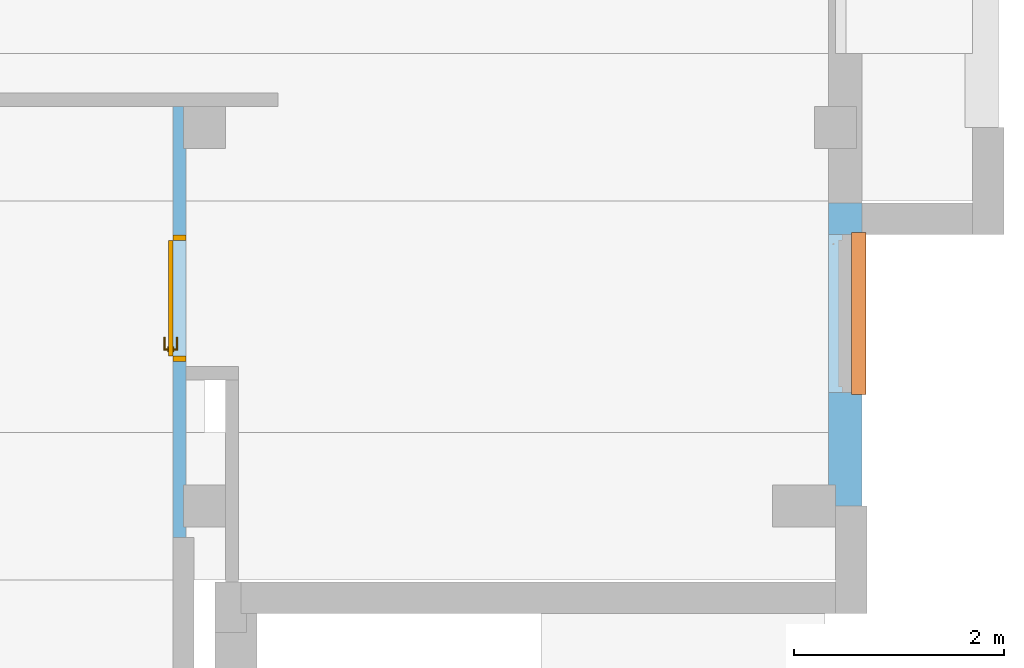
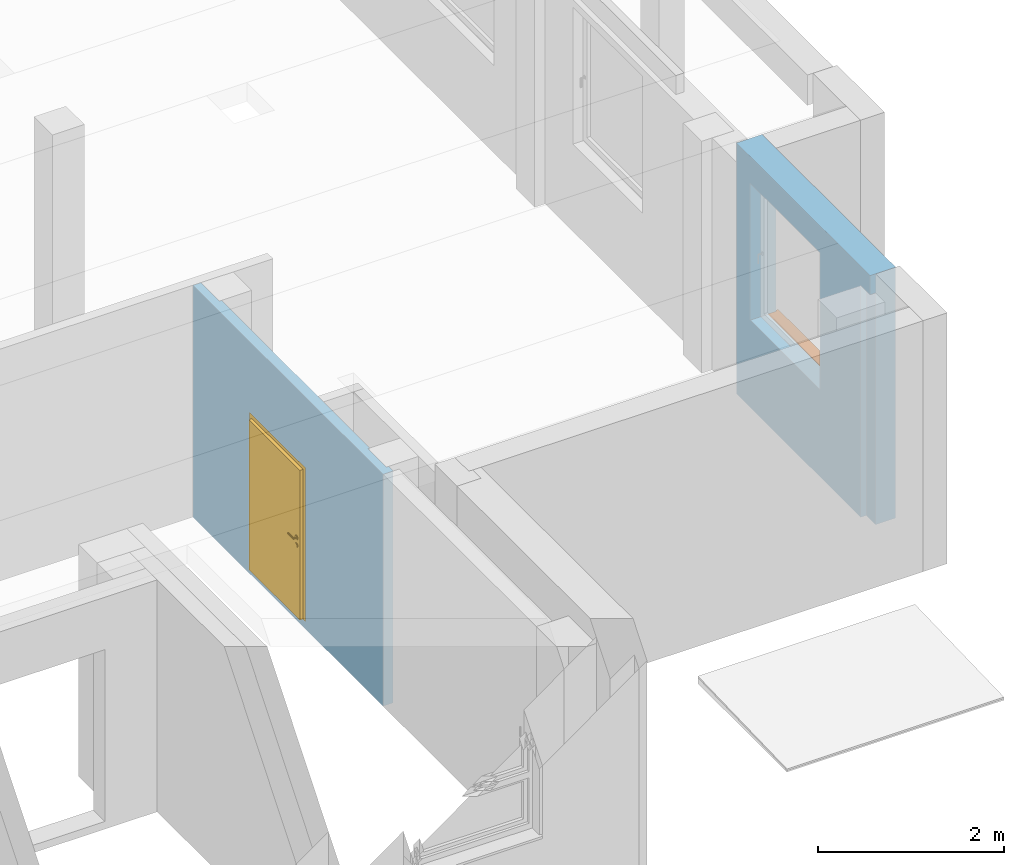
# One storey, part 16 of 27: 1 door, 1 proxy, 2 openings, plus 2 elements that do not belong to this part.
"""IFC4 building model written with IfcOpenShell, lengths in metres."""

from ifc_helpers import new_model, entity, si_unit, converted_unit, derived_unit, frame, frame_2d, origin, origin_with_axes, place, context, subcontext, project, spatial, polyline, rectangle, outline, extrude, clip, bounded_halfspace, closed_shell, open_shell, faceted_brep, surface_model, source, transform, mapped, material, layer, layer_set, layer_usage, type_object, element, fill, save


model = new_model("IFC4")

# Units and contexts
model_context = context("Model", 3, precision=1e-05, world=origin())
body_context = subcontext(model_context, "Body", "Model", "MODEL_VIEW")
ifc_project = project(units=[si_unit("LENGTHUNIT", "METRE"), si_unit("AREAUNIT", "SQUARE_METRE"), si_unit("VOLUMEUNIT", "CUBIC_METRE"), si_unit("MASSUNIT", "GRAM", prefix="KILO"), converted_unit("PLANEANGLEUNIT", "DEGREE", entity("IfcPlaneAngleMeasure", 0.0174532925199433), si_unit("PLANEANGLEUNIT", "RADIAN"), dimensions=[0, 0, 0, 0, 0, 0, 0]), derived_unit("THERMALTRANSMITTANCEUNIT", [(si_unit("POWERUNIT", "WATT"), 1), (si_unit("THERMODYNAMICTEMPERATUREUNIT", "KELVIN"), -1), (si_unit("LENGTHUNIT", "METRE"), -2)]), derived_unit("VOLUMETRICFLOWRATEUNIT", [(si_unit("LENGTHUNIT", "METRE"), 3), (converted_unit("TIMEUNIT", "hour", entity("IfcTimeMeasure", 3600.0), si_unit("TIMEUNIT", "SECOND"), dimensions=[0, 0, 1, 0, 0, 0, 0]), -1), (si_unit("LENGTHUNIT", "METRE"), -1)])], contexts=[model_context])

# Site, building, storey
site_placement = place(None, origin())
site = spatial("IfcSite", under=ifc_project, at=site_placement, Name="3. ASŘ", CompositionType="ELEMENT")
building_placement = place(site_placement, origin())
building = spatial("IfcBuilding", under=site, at=building_placement, Name="Pavilon C", CompositionType="ELEMENT")
storey_placement = place(building_placement, frame((0.0, 0.0, 7.2)))
storey = spatial("IfcBuildingStorey", under=building, at=storey_placement, Name="Půdorys 3.NP", CompositionType="ELEMENT", Elevation=7.2)

# Wall, opening, proxy
ifc_material_1 = material(Name="PLYNOSILIKÁT")
ifc_layer_1 = layer(ifc_material_1, 0.32)
ifc_layer_set_1 = layer_set([ifc_layer_1])
ifc_layer_usage_1 = layer_usage(ifc_layer_set_1, "AXIS2", "POSITIVE", 0.0)
wall_1_placement = place(storey_placement, frame((50.2, -5.51980683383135e-15, -0.1), z_axis=(0.0, 0.0, 1.0), x_axis=(0.0, 1.0, 0.0)))
wall_1 = element("IfcWall", 1, at=wall_1_placement, inside=storey, material=ifc_layer_usage_1, Name="PLYNOSILIKÁT", context=body_context, shape_type="Clipping", body=[
    clip(extrude(rectangle(XDim=2.88, YDim=0.32, at=frame_2d((1.44, 0.16), x_axis=(1.0, 0.0))), origin_with_axes(), (0.0, 0.0, 1.0), 3.3), bounded_halfspace(frame((0.0999999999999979, 0.285, 3.05), z_axis=(0.0, 0.0, 1.0), x_axis=(0.0, 1.0, 0.0)), True, origin_with_axes(), polyline([(0.199999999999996, 0.25), (0.199999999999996, 0.32), (6.28386231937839e-17, 0.32), (6.28386231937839e-17, 0.25), (0.199999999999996, 0.25)]))),
])
opening_1_placement = place(wall_1_placement, frame((1.08, 0.0, 1.15), z_axis=(0.0, 1.0, 0.0), x_axis=(0.0, 0.0, 1.0)))
opening_1 = element("IfcOpeningElement", 2, at=opening_1_placement, cuts=wall_1, Name="Okenní otvor", ObjectType="Opening", context=body_context, shape_type="SweptSolid", body=[
    extrude(outline(polyline([(0.0, 1.5), (1.8, 1.5), (1.8, 0.0), (0.0, 0.0), (0.0, 1.5)])), origin_with_axes(), (0.0, 0.0, 1.0), 0.32),
])
ifc_material_2 = material(Name="PLECH")
shared_shape_1 = source(origin_with_axes(), body_context, "Body", "Brep", [
    faceted_brep([(-4.54747350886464e-16, 1.45519152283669e-14, 0.0), (-4.54747350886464e-16, 0.100000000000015, 0.0), (-4.54747350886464e-16, 0.100000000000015, 0.005), (-4.54747350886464e-16, 1.45519152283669e-14, 0.005), (1.5, 1.45519152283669e-14, 0.0), (1.5, 1.45519152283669e-14, 0.005), (1.5, 0.100000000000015, 0.005), (1.5, 0.100000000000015, 0.0), (-0.0200000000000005, 1.45519152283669e-14, 0.0), (-0.0200000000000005, -0.0349999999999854, 0.0), (1.52, -0.0349999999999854, 0.0), (1.52, 1.45519152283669e-14, 0.0), (1.52, 1.45519152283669e-14, 0.005), (1.52, -0.0399999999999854, 0.005), (-0.0200000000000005, -0.0399999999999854, 0.005), (-0.0200000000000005, 1.45519152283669e-14, 0.005), (-0.0200000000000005, -0.0399999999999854, -0.025), (-0.0200000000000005, -0.0349999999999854, -0.025), (1.52, -0.0349999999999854, -0.025), (1.52, -0.0399999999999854, -0.025)], [[[0, 1, 2, 3]], [[4, 5, 6, 7]], [[1, 0, 8, 9, 10, 11, 4, 7]], [[2, 1, 7, 6]], [[3, 2, 6, 5, 12, 13, 14, 15]], [[8, 15, 14, 16, 17, 9]], [[11, 10, 18, 19, 13, 12]], [[15, 8, 0, 3]], [[5, 4, 11, 12]], [[16, 14, 13, 19]], [[17, 16, 19, 18]], [[9, 17, 18, 10]]], orient=[[False], [False], [False], [False], [False], [False], [False], [False], [False], [False], [False], [False]]),
    faceted_brep([(-0.0200000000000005, 1.45519152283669e-14, 0.0), (-0.0200000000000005, 0.100000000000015, 0.0), (-0.0200000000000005, 0.100000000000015, 0.005), (-0.0200000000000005, 1.45519152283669e-14, 0.005), (-4.54747350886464e-16, 1.45519152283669e-14, 0.0), (-4.54747350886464e-16, 1.45519152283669e-14, 0.005), (-4.54747350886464e-16, 0.100000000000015, 0.005), (-4.54747350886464e-16, 0.100000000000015, 0.0)], [[[0, 1, 2, 3]], [[4, 5, 6, 7]], [[1, 0, 4, 7]], [[2, 1, 7, 6]], [[3, 2, 6, 5]], [[0, 3, 5, 4]]], orient=[[False], [False], [False], [False], [False], [False]]),
    faceted_brep([(1.5, 1.45519152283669e-14, 0.0), (1.5, 0.100000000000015, 0.0), (1.5, 0.100000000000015, 0.005), (1.5, 1.45519152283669e-14, 0.005), (1.52, 1.45519152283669e-14, 0.0), (1.52, 1.45519152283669e-14, 0.005), (1.52, 0.100000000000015, 0.005), (1.52, 0.100000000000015, 0.0)], [[[0, 1, 2, 3]], [[4, 5, 6, 7]], [[1, 0, 4, 7]], [[2, 1, 7, 6]], [[3, 2, 6, 5]], [[0, 3, 5, 4]]], orient=[[False], [False], [False], [False], [False], [False]]),
])
proxy_placement = place(opening_1_placement, frame((0.0, 0.0, 0.0), z_axis=(1.0, 0.0, 0.0), x_axis=(0.0, 1.0, 0.0)))
proxy = element("IfcBuildingElementProxy", 3, at=proxy_placement, inside=storey, material=ifc_material_2, Name="Parapet vnější", context=body_context, shape_type="MappedRepresentation", body=[
    mapped(shared_shape_1, transform((0.0, 0.0, 0.0), x_axis=(1.0, 0.0, 0.0), y_axis=(0.0, 1.0, 0.0), z_axis=(0.0, 0.0, 1.0), scale=1.0)),
])
fill(opening_1, proxy)

# Wall, opening, door
ifc_material_3 = material(Name="ZDIVO Z CDm")
ifc_layer_2 = layer(ifc_material_3, 0.125)
ifc_layer_set_2 = layer_set([ifc_layer_2])
ifc_layer_usage_2 = layer_usage(ifc_layer_set_2, "AXIS2", "POSITIVE", 0.0)
wall_2_placement = place(storey_placement, frame((43.65, 3.79999999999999, -0.1), z_axis=(0.0, 0.0, 1.0), x_axis=(0.0, -1.0, 0.0)))
wall_2 = element("IfcWall", 4, at=wall_2_placement, inside=storey, material=ifc_layer_usage_2, Name="ZDIVO Z CDm", context=body_context, shape_type="SweptSolid", body=[
    extrude(outline(polyline([(-4.09999999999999, 0.0), (0.0, 0.0), (0.0, 0.125), (-0.0999999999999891, 0.125), (-0.0999999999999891, 0.100000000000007), (-0.499999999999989, 0.100000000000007), (-0.499999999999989, 0.125), (-3.69999999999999, 0.125), (-3.69999999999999, 0.100000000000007), (-4.09999999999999, 0.100000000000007), (-4.09999999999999, 0.0)])), frame((4.09999999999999, 0.0, 0.0), z_axis=(0.0, 0.0, 1.0), x_axis=(1.0, 0.0, 0.0)), (0.0, 0.0, 1.0), 3.05),
])
opening_2_placement = place(wall_2_placement, frame((2.425, 0.125, 0.1), z_axis=(0.0, -1.0, 0.0), x_axis=(0.0, 0.0, 1.0)))
opening_2 = element("IfcOpeningElement", 5, at=opening_2_placement, cuts=wall_2, Name="Dveřní otvor", ObjectType="Opening", context=body_context, shape_type="SweptSolid", body=[
    extrude(outline(polyline([(0.0, 1.2), (2.02, 1.2), (2.02, 0.0), (0.0, 0.0), (0.0, 1.2)])), origin_with_axes(), (0.0, 0.0, 1.0), 0.125),
])
door_type = type_object("IfcDoorType", Name="D101", OperationType="NOTDEFINED", ParameterTakesPrecedence=False, PredefinedType="DOOR")
shared_shape_2 = source(origin_with_axes(), body_context, "Body", "SurfaceModel", [
    surface_model("IfcShellBasedSurfaceModel", [(0.0, 0.125, 2.02), (0.0, 0.125, -7.65404249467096e-18), (0.05, 0.125, -7.65404249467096e-18), (0.05, 0.125, 2.02), (0.0, 0.0, 7.65404249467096e-18), (0.0, 2.41584530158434e-16, 2.02), (0.05, 2.41584530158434e-16, 2.02), (0.05, 0.0, 7.65404249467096e-18)], [closed_shell([[[0, 1, 2, 3]], [[4, 5, 6, 7]], [[1, 0, 5, 4]], [[2, 1, 4, 7]], [[3, 2, 7, 6]], [[0, 3, 6, 5]]], orient=[[False], [False], [False], [False], [False], [False]])]),
    surface_model("IfcShellBasedSurfaceModel", [(1.15, 0.125, 2.02), (1.15, 0.125, -7.65404249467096e-18), (1.2, 0.125, -7.65404249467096e-18), (1.2, 0.125, 2.02), (1.15, 0.0, 7.65404249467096e-18), (1.15, 2.41584530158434e-16, 2.02), (1.2, 2.41584530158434e-16, 2.02), (1.2, 0.0, 7.65404249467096e-18)], [closed_shell([[[0, 1, 2, 3]], [[4, 5, 6, 7]], [[1, 0, 5, 4]], [[2, 1, 4, 7]], [[3, 2, 7, 6]], [[0, 3, 6, 5]]], orient=[[False], [False], [False], [False], [False], [False]])]),
    surface_model("IfcShellBasedSurfaceModel", [(0.05, 0.125, 2.02), (0.05, 0.125, 1.97), (1.15, 0.125, 1.97), (1.15, 0.125, 2.02), (0.05, 2.41584530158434e-16, 1.97), (0.05, 2.41584530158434e-16, 2.02), (1.15, 2.41584530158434e-16, 2.02), (1.15, 2.41584530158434e-16, 1.97)], [closed_shell([[[0, 1, 2, 3]], [[4, 5, 6, 7]], [[1, 0, 5, 4]], [[2, 1, 4, 7]], [[3, 2, 7, 6]], [[0, 3, 6, 5]]], orient=[[False], [False], [False], [False], [False], [False]])]),
    surface_model("IfcShellBasedSurfaceModel", [(0.05, 0.165, 1.97), (0.05, 0.165, -1.25526296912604e-17), (1.15, 0.165, -1.25526296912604e-17), (1.15, 0.165, 1.97), (0.05, 0.125, -7.65404249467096e-18), (0.05, 0.125, 1.97), (1.15, 0.125, 1.97), (1.15, 0.125, -7.65404249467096e-18)], [closed_shell([[[0, 1, 2, 3]], [[4, 5, 6, 7]], [[1, 0, 5, 4]], [[2, 1, 4, 7]], [[3, 2, 7, 6]], [[0, 3, 6, 5]]], orient=[[False], [False], [False], [False], [False], [False]])]),
    surface_model("IfcShellBasedSurfaceModel", [(1.10881569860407, 0.125, 0.93625), (1.1125, 0.125, 0.95), (1.10881569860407, 0.125, 0.96375), (1.09875, 0.125, 0.973815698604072), (1.085, 0.125, 0.9775), (1.07125, 0.125, 0.973815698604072), (1.06118430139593, 0.125, 0.96375), (1.0575, 0.125, 0.95), (1.06118430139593, 0.125, 0.93625), (1.07125, 0.125, 0.926184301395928), (1.085, 0.125, 0.9225), (1.09875, 0.125, 0.926184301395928), (1.1125, 0.1125, 0.95), (1.10881569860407, 0.1125, 0.93625), (1.09875, 0.1125, 0.926184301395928), (1.085, 0.1125, 0.9225), (1.07125, 0.1125, 0.926184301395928), (1.06118430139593, 0.1125, 0.93625), (1.0575, 0.1125, 0.95), (1.06118430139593, 0.1125, 0.96375), (1.07125, 0.1125, 0.973815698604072), (1.085, 0.1125, 0.9775), (1.09875, 0.1125, 0.973815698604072), (1.10881569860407, 0.1125, 0.96375)], [closed_shell([[[0, 1, 2, 3, 4, 5, 6, 7, 8, 9, 10, 11]], [[12, 13, 14, 15, 16, 17, 18, 19, 20, 21, 22, 23]], [[1, 0, 13, 12]], [[2, 1, 12, 23]], [[3, 2, 23, 22]], [[4, 3, 22, 21]], [[5, 4, 21, 20]], [[6, 5, 20, 19]], [[7, 6, 19, 18]], [[8, 7, 18, 17]], [[9, 8, 17, 16]], [[10, 9, 16, 15]], [[11, 10, 15, 14]], [[0, 11, 14, 13]]], orient=[[False], [False], [False], [False], [False], [False], [False], [False], [False], [False], [False], [False], [False], [False]])]),
    surface_model("IfcShellBasedSurfaceModel", [(1.10881569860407, 0.125, 1.03625), (1.1125, 0.125, 1.05), (1.10881569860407, 0.125, 1.06375), (1.09875, 0.125, 1.07381569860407), (1.085, 0.125, 1.0775), (1.07125, 0.125, 1.07381569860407), (1.06118430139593, 0.125, 1.06375), (1.0575, 0.125, 1.05), (1.06118430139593, 0.125, 1.03625), (1.07125, 0.125, 1.02618430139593), (1.085, 0.125, 1.0225), (1.09875, 0.125, 1.02618430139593), (1.1125, 0.1125, 1.05), (1.10881569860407, 0.1125, 1.03625), (1.09875, 0.1125, 1.02618430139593), (1.085, 0.1125, 1.0225), (1.07125, 0.1125, 1.02618430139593), (1.06118430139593, 0.1125, 1.03625), (1.0575, 0.1125, 1.05), (1.06118430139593, 0.1125, 1.06375), (1.07125, 0.1125, 1.07381569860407), (1.085, 0.1125, 1.0775), (1.09875, 0.1125, 1.07381569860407), (1.10881569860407, 0.1125, 1.06375)], [closed_shell([[[0, 1, 2, 3, 4, 5, 6, 7, 8, 9, 10, 11]], [[12, 13, 14, 15, 16, 17, 18, 19, 20, 21, 22, 23]], [[1, 0, 13, 12]], [[2, 1, 12, 23]], [[3, 2, 23, 22]], [[4, 3, 22, 21]], [[5, 4, 21, 20]], [[6, 5, 20, 19]], [[7, 6, 19, 18]], [[8, 7, 18, 17]], [[9, 8, 17, 16]], [[10, 9, 16, 15]], [[11, 10, 15, 14]], [[0, 11, 14, 13]]], orient=[[False], [False], [False], [False], [False], [False], [False], [False], [False], [False], [False], [False], [False], [False]])]),
    surface_model("IfcShellBasedSurfaceModel", [(1.085, 0.125, 1.06), (1.08, 0.125, 1.05866025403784), (1.07633974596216, 0.125, 1.055), (1.075, 0.125, 1.05), (1.07633974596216, 0.125, 1.045), (1.08, 0.125, 1.04133974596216), (1.085, 0.125, 1.04), (1.09, 0.125, 1.04133974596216), (1.09366025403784, 0.125, 1.045), (1.095, 0.125, 1.05), (1.09366025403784, 0.125, 1.055), (1.09, 0.125, 1.05866025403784), (1.09, 0.0800000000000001, 1.05866025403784), (1.085, 0.0850000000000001, 1.06), (1.09366025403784, 0.0763397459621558, 1.055), (1.095, 0.0750000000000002, 1.05), (1.09366025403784, 0.0763397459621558, 1.045), (1.09, 0.0800000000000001, 1.04133974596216), (1.085, 0.0850000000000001, 1.04), (1.08, 0.0900000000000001, 1.04133974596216), (1.07633974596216, 0.0936602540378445, 1.045), (1.075, 0.0950000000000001, 1.05), (1.07633974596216, 0.0936602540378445, 1.055), (1.08, 0.0900000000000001, 1.05866025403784), (0.97, 0.0800000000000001, 1.05866025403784), (0.97, 0.0850000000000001, 1.06), (0.97, 0.0763397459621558, 1.055), (0.97, 0.0750000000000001, 1.05), (0.97, 0.0763397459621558, 1.045), (0.97, 0.0800000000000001, 1.04133974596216), (0.97, 0.0850000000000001, 1.04), (0.97, 0.0900000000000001, 1.04133974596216), (0.97, 0.0936602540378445, 1.045), (0.97, 0.0950000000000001, 1.05), (0.97, 0.0936602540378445, 1.055), (0.97, 0.0900000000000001, 1.05866025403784)], [open_shell([[[0, 1, 2, 3, 4, 5, 6, 7, 8, 9, 10, 11]], [[0, 11, 12, 13]], [[11, 10, 14, 12]], [[10, 9, 15, 14]], [[9, 8, 16, 15]], [[8, 7, 17, 16]], [[7, 6, 18, 17]], [[6, 5, 19, 18]], [[5, 4, 20, 19]], [[4, 3, 21, 20]], [[3, 2, 22, 21]], [[2, 1, 23, 22]], [[1, 0, 13, 23]], [[13, 12, 24, 25]], [[12, 14, 26, 24]], [[14, 15, 27, 26]], [[15, 16, 28, 27]], [[16, 17, 29, 28]], [[17, 18, 30, 29]], [[18, 19, 31, 30]], [[19, 20, 32, 31]], [[20, 21, 33, 32]], [[21, 22, 34, 33]], [[22, 23, 35, 34]], [[23, 13, 25, 35]]], orient=[[False], [False], [False], [False], [False], [False], [False], [False], [False], [False], [False], [False], [False], [False], [False], [False], [False], [False], [False], [False], [False], [False], [False], [False], [False]])]),
    surface_model("IfcShellBasedSurfaceModel", [(1.10881569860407, 0.165, 0.93625), (1.09875, 0.165, 0.926184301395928), (1.085, 0.165, 0.9225), (1.07125, 0.165, 0.926184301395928), (1.06118430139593, 0.165, 0.93625), (1.0575, 0.165, 0.95), (1.06118430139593, 0.165, 0.96375), (1.07125, 0.165, 0.973815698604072), (1.085, 0.165, 0.9775), (1.09875, 0.165, 0.973815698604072), (1.10881569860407, 0.165, 0.96375), (1.1125, 0.165, 0.95), (1.1125, 0.1775, 0.95), (1.10881569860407, 0.1775, 0.96375), (1.09875, 0.1775, 0.973815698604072), (1.085, 0.1775, 0.9775), (1.07125, 0.1775, 0.973815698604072), (1.06118430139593, 0.1775, 0.96375), (1.0575, 0.1775, 0.95), (1.06118430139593, 0.1775, 0.93625), (1.07125, 0.1775, 0.926184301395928), (1.085, 0.1775, 0.9225), (1.09875, 0.1775, 0.926184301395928), (1.10881569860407, 0.1775, 0.93625)], [closed_shell([[[0, 1, 2, 3, 4, 5, 6, 7, 8, 9, 10, 11]], [[12, 13, 14, 15, 16, 17, 18, 19, 20, 21, 22, 23]], [[11, 12, 23, 0]], [[10, 13, 12, 11]], [[9, 14, 13, 10]], [[8, 15, 14, 9]], [[7, 16, 15, 8]], [[6, 17, 16, 7]], [[5, 18, 17, 6]], [[4, 19, 18, 5]], [[3, 20, 19, 4]], [[2, 21, 20, 3]], [[1, 22, 21, 2]], [[0, 23, 22, 1]]], orient=[[False], [False], [False], [False], [False], [False], [False], [False], [False], [False], [False], [False], [False], [False]])]),
    surface_model("IfcShellBasedSurfaceModel", [(1.10881569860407, 0.165, 1.03625), (1.09875, 0.165, 1.02618430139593), (1.085, 0.165, 1.0225), (1.07125, 0.165, 1.02618430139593), (1.06118430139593, 0.165, 1.03625), (1.0575, 0.165, 1.05), (1.06118430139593, 0.165, 1.06375), (1.07125, 0.165, 1.07381569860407), (1.085, 0.165, 1.0775), (1.09875, 0.165, 1.07381569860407), (1.10881569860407, 0.165, 1.06375), (1.1125, 0.165, 1.05), (1.1125, 0.1775, 1.05), (1.10881569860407, 0.1775, 1.06375), (1.09875, 0.1775, 1.07381569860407), (1.085, 0.1775, 1.0775), (1.07125, 0.1775, 1.07381569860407), (1.06118430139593, 0.1775, 1.06375), (1.0575, 0.1775, 1.05), (1.06118430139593, 0.1775, 1.03625), (1.07125, 0.1775, 1.02618430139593), (1.085, 0.1775, 1.0225), (1.09875, 0.1775, 1.02618430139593), (1.10881569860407, 0.1775, 1.03625)], [closed_shell([[[0, 1, 2, 3, 4, 5, 6, 7, 8, 9, 10, 11]], [[12, 13, 14, 15, 16, 17, 18, 19, 20, 21, 22, 23]], [[11, 12, 23, 0]], [[10, 13, 12, 11]], [[9, 14, 13, 10]], [[8, 15, 14, 9]], [[7, 16, 15, 8]], [[6, 17, 16, 7]], [[5, 18, 17, 6]], [[4, 19, 18, 5]], [[3, 20, 19, 4]], [[2, 21, 20, 3]], [[1, 22, 21, 2]], [[0, 23, 22, 1]]], orient=[[False], [False], [False], [False], [False], [False], [False], [False], [False], [False], [False], [False], [False], [False]])]),
    surface_model("IfcShellBasedSurfaceModel", [(1.085, 0.165, 1.06), (1.09, 0.165, 1.05866025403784), (1.09366025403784, 0.165, 1.055), (1.095, 0.165, 1.05), (1.09366025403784, 0.165, 1.045), (1.09, 0.165, 1.04133974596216), (1.085, 0.165, 1.04), (1.08, 0.165, 1.04133974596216), (1.07633974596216, 0.165, 1.045), (1.075, 0.165, 1.05), (1.07633974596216, 0.165, 1.055), (1.08, 0.165, 1.05866025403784), (1.085, 0.205, 1.06), (1.09, 0.21, 1.05866025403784), (1.09366025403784, 0.213660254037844, 1.055), (1.095, 0.215, 1.05), (1.09366025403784, 0.213660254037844, 1.045), (1.09, 0.21, 1.04133974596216), (1.085, 0.205, 1.04), (1.08, 0.2, 1.04133974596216), (1.07633974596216, 0.196339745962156, 1.045), (1.075, 0.195, 1.05), (1.07633974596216, 0.196339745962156, 1.055), (1.08, 0.2, 1.05866025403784), (0.97, 0.205, 1.06), (0.97, 0.21, 1.05866025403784), (0.97, 0.213660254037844, 1.055), (0.97, 0.215, 1.05), (0.97, 0.213660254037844, 1.045), (0.97, 0.21, 1.04133974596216), (0.97, 0.205, 1.04), (0.97, 0.2, 1.04133974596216), (0.97, 0.196339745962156, 1.045), (0.97, 0.195, 1.05), (0.97, 0.196339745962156, 1.055), (0.97, 0.2, 1.05866025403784)], [open_shell([[[0, 1, 2, 3, 4, 5, 6, 7, 8, 9, 10, 11]], [[0, 12, 13, 1]], [[1, 13, 14, 2]], [[2, 14, 15, 3]], [[3, 15, 16, 4]], [[4, 16, 17, 5]], [[5, 17, 18, 6]], [[6, 18, 19, 7]], [[7, 19, 20, 8]], [[8, 20, 21, 9]], [[9, 21, 22, 10]], [[10, 22, 23, 11]], [[11, 23, 12, 0]], [[12, 24, 25, 13]], [[13, 25, 26, 14]], [[14, 26, 27, 15]], [[15, 27, 28, 16]], [[16, 28, 29, 17]], [[17, 29, 30, 18]], [[18, 30, 31, 19]], [[19, 31, 32, 20]], [[20, 32, 33, 21]], [[21, 33, 34, 22]], [[22, 34, 35, 23]], [[23, 35, 24, 12]]], orient=[[False], [False], [False], [False], [False], [False], [False], [False], [False], [False], [False], [False], [False], [False], [False], [False], [False], [False], [False], [False], [False], [False], [False], [False], [False]])]),
])
door_placement = place(opening_2_placement, frame((0.0, 1.2, 1.45519152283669e-14), z_axis=(1.0, 0.0, 0.0), x_axis=(0.0, -1.0, 1.22464679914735e-16)))
door = element("IfcDoor", 6, at=door_placement, inside=storey, type_object=door_type, Name="D101", OverallHeight=2.02, OverallWidth=1.2, context=body_context, shape_type="MappedRepresentation", body=[
    mapped(shared_shape_2, transform((0.0, 0.0, 0.0), x_axis=(1.0, 0.0, 0.0), y_axis=(0.0, -1.0, 0.0), z_axis=(0.0, 0.0, 1.0), scale=1.0)),
])
fill(opening_2, door)

save(model, "model.ifc")
